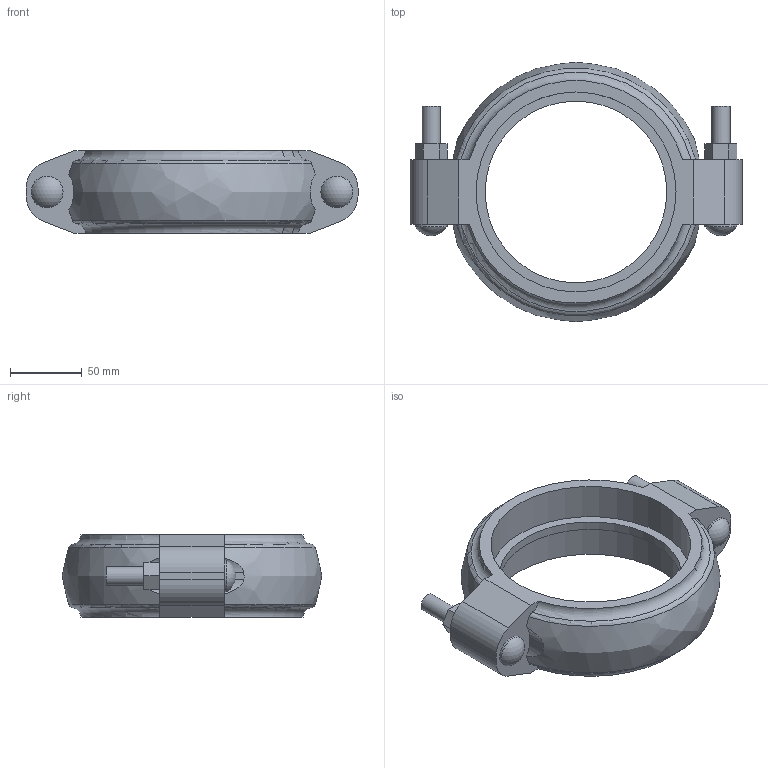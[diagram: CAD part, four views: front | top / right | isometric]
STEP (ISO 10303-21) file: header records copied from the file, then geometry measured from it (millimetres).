
FILE_DESCRIPTION(/* description */ ('VIC STRENGTHIN COUPLING STYLE E497 (RIGID)','CAx-IF Rec.Pracs.---Representation and Presentation of Product Manufacturing Information (PMI)---4.0---2014-10-13'),/* implementation_level */ '2;1');
FILE_NAME(/* name */ 'C:\Users\Vjadhav\AppData\Roaming\Autodesk\ApplicationPlugins\Back Up\Victaulic_SS-StrengThin 100_Coupling Rigid_Style E497 (ST1)\Victaulic_SS-StrengThin 100_Coupling Rigid_Style E497 (ST1)_05.0 (139.7) (125).stp',/* time_stamp */ '2020-07-07T19:35:44+05:00',/* author */ ('jheald'),/* organization */ ('Victaulic'),/* preprocessor_version */ 'ST-DEVELOPER v17.2',/* originating_system */ 'Autodesk Inventor 2019',/* authorisation */ '');
FILE_SCHEMA (('AP242_MANAGED_MODEL_BASED_3D_ENGINEERING_MIM_LF { 1 0 10303 442 1 1 4 }'));
Length unit declared in the file: inch
Products named in the file (1): E497-05.0 (139.7)
Bounding box: 231.9 x 181.1 x 57.91 mm (x, y, z)
Volume: 615841.5 mm3; surface area: 97110.8 mm2
Topology: 1 solids, 3 shells, 79 faces, 211 edges, 142 vertices
Faces by surface type: plane 42, cylinder 25, torus 8, sphere 2, bspline 2
Full cylindrical faces by diameter (mm): 12.7 x4, 22.225 x2, 127 x1, 139.7 x2
Entity records: 3048 total; most frequent: CARTESIAN_POINT 850, DIRECTION 423, ORIENTED_EDGE 422, EDGE_CURVE 211, AXIS2_PLACEMENT_3D 157, VERTEX_POINT 142, LINE 109, VECTOR 109
